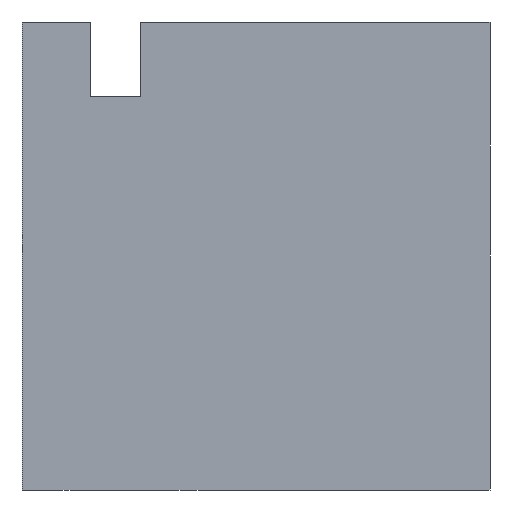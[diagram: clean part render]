
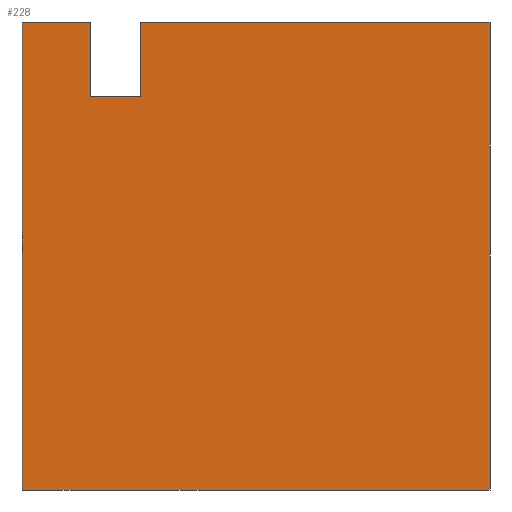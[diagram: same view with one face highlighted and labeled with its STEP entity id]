
A CAD part, front view. The second image highlights one B-rep face of the part: STEP entity #228.
In plain terms, the highlighted planar face has unit normal (0, -1, 0).
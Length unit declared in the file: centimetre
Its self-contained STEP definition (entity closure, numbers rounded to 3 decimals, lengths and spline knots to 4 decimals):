
#1 = DIRECTION ( 'NONE',  ( 0., 0., 1. ) ) ;
#19 = ORIENTED_EDGE ( 'NONE', *, *, #1076, .F. ) ;
#54 = ORIENTED_EDGE ( 'NONE', *, *, #1007, .T. ) ;
#88 = VERTEX_POINT ( 'NONE', #992 ) ;
#92 = AXIS2_PLACEMENT_3D ( 'NONE', #1024, #384, #1 ) ;
#95 = LINE ( 'NONE', #735, #385 ) ;
#98 = EDGE_CURVE ( 'NONE', #597, #543, #272, .T. ) ;
#111 = LINE ( 'NONE', #471, #474 ) ;
#125 = CARTESIAN_POINT ( 'NONE',  ( 252.3306, 0., 1000. ) ) ;
#171 = LINE ( 'NONE', #804, #433 ) ;
#193 = VECTOR ( 'NONE', #1004, 100. ) ;
#208 = VECTOR ( 'NONE', #613, 100. ) ;
#212 = DIRECTION ( 'NONE',  ( 0., 0., -1. ) ) ;
#228 = ADVANCED_FACE ( 'NONE', ( #379 ), #289, .F. ) ;
#243 = EDGE_CURVE ( 'NONE', #88, #597, #95, .T. ) ;
#265 = ORIENTED_EDGE ( 'NONE', *, *, #98, .T. ) ;
#268 = CARTESIAN_POINT ( 'NONE',  ( 1000., 0., 1000. ) ) ;
#272 = LINE ( 'NONE', #360, #208 ) ;
#289 = PLANE ( 'NONE',  #92 ) ;
#360 = CARTESIAN_POINT ( 'NONE',  ( 0., 0., 0. ) ) ;
#372 = EDGE_CURVE ( 'NONE', #955, #479, #111, .T. ) ;
#379 = FACE_OUTER_BOUND ( 'NONE', #502, .T. ) ;
#383 = EDGE_CURVE ( 'NONE', #1132, #543, #487, .T. ) ;
#384 = DIRECTION ( 'NONE',  ( 0., 1., 0. ) ) ;
#385 = VECTOR ( 'NONE', #641, 100. ) ;
#400 = LINE ( 'NONE', #1064, #907 ) ;
#433 = VECTOR ( 'NONE', #809, 100. ) ;
#452 = CARTESIAN_POINT ( 'NONE',  ( 252.3306, 0., 840.6361 ) ) ;
#471 = CARTESIAN_POINT ( 'NONE',  ( 252.3306, 0., 840.6361 ) ) ;
#474 = VECTOR ( 'NONE', #563, 100. ) ;
#479 = VERTEX_POINT ( 'NONE', #452 ) ;
#487 = LINE ( 'NONE', #842, #686 ) ;
#502 = EDGE_LOOP ( 'NONE', ( #578, #54, #19, #635, #265, #537, #891, #583 ) ) ;
#503 = EDGE_CURVE ( 'NONE', #479, #866, #894, .T. ) ;
#514 = CARTESIAN_POINT ( 'NONE',  ( 1000., 0., 0. ) ) ;
#537 = ORIENTED_EDGE ( 'NONE', *, *, #383, .F. ) ;
#543 = VERTEX_POINT ( 'NONE', #514 ) ;
#563 = DIRECTION ( 'NONE',  ( 0., 0., -1. ) ) ;
#567 = EDGE_CURVE ( 'NONE', #955, #1132, #904, .T. ) ;
#578 = ORIENTED_EDGE ( 'NONE', *, *, #503, .T. ) ;
#583 = ORIENTED_EDGE ( 'NONE', *, *, #372, .T. ) ;
#596 = DIRECTION ( 'NONE',  ( 0., 0., 1. ) ) ;
#597 = VERTEX_POINT ( 'NONE', #623 ) ;
#613 = DIRECTION ( 'NONE',  ( 1., 0., 0. ) ) ;
#623 = CARTESIAN_POINT ( 'NONE',  ( 0., 0., 0. ) ) ;
#635 = ORIENTED_EDGE ( 'NONE', *, *, #243, .T. ) ;
#641 = DIRECTION ( 'NONE',  ( 0., 0., -1. ) ) ;
#664 = VECTOR ( 'NONE', #887, 100. ) ;
#686 = VECTOR ( 'NONE', #212, 100. ) ;
#735 = CARTESIAN_POINT ( 'NONE',  ( 0., 0., 1000. ) ) ;
#772 = VERTEX_POINT ( 'NONE', #853 ) ;
#797 = CARTESIAN_POINT ( 'NONE',  ( 146.7654, 0., 840.6361 ) ) ;
#801 = CARTESIAN_POINT ( 'NONE',  ( 146.7654, 0., 840.6361 ) ) ;
#804 = CARTESIAN_POINT ( 'NONE',  ( 0., 0., 1000. ) ) ;
#809 = DIRECTION ( 'NONE',  ( 1., 0., 0. ) ) ;
#842 = CARTESIAN_POINT ( 'NONE',  ( 1000., 0., 1000. ) ) ;
#853 = CARTESIAN_POINT ( 'NONE',  ( 146.7654, 0., 1000. ) ) ;
#866 = VERTEX_POINT ( 'NONE', #801 ) ;
#887 = DIRECTION ( 'NONE',  ( 1., 0., 0. ) ) ;
#891 = ORIENTED_EDGE ( 'NONE', *, *, #567, .F. ) ;
#894 = LINE ( 'NONE', #797, #193 ) ;
#904 = LINE ( 'NONE', #1181, #664 ) ;
#907 = VECTOR ( 'NONE', #596, 100. ) ;
#955 = VERTEX_POINT ( 'NONE', #125 ) ;
#992 = CARTESIAN_POINT ( 'NONE',  ( 0., 0., 1000. ) ) ;
#1004 = DIRECTION ( 'NONE',  ( -1., 0., 0. ) ) ;
#1007 = EDGE_CURVE ( 'NONE', #866, #772, #400, .T. ) ;
#1024 = CARTESIAN_POINT ( 'NONE',  ( 0., 0., 1000. ) ) ;
#1064 = CARTESIAN_POINT ( 'NONE',  ( 146.7654, 0., 840.6361 ) ) ;
#1076 = EDGE_CURVE ( 'NONE', #88, #772, #171, .T. ) ;
#1132 = VERTEX_POINT ( 'NONE', #268 ) ;
#1181 = CARTESIAN_POINT ( 'NONE',  ( 0., 0., 1000. ) ) ;
